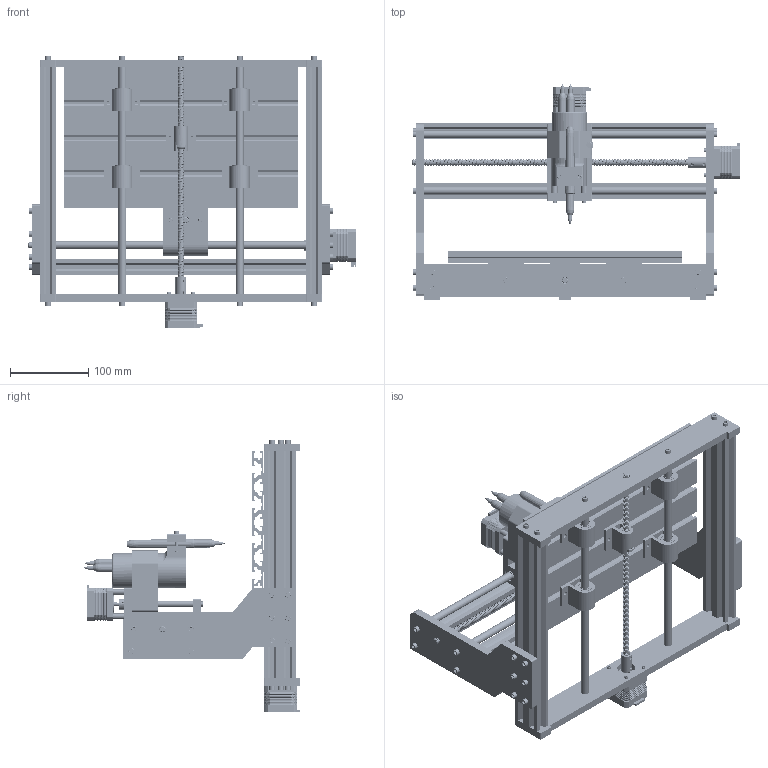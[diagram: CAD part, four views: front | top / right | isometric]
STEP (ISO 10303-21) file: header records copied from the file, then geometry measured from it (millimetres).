
FILE_DESCRIPTION(/* description */ ('STEP AP214'),/* implementation_level */ '2;1');
FILE_NAME(/* name */ 'cnc 3018 pro pen holder.stp',/* time_stamp */ '2024-11-10T20:24:41+01:00',/* author */ ('R5800u'),/* organization */ (''),/* preprocessor_version */ 'ST-DEVELOPER v20',/* originating_system */ 'Autodesk Inventor 2025',/* authorisation */ '');
FILE_SCHEMA (('AUTOMOTIVE_DESIGN { 1 0 10303 214 3 1 1 }'));
Products named in the file (37): Baugruppe - Original_1; Original - Nutenstein klein M5_1; Original - Zylinderkopfschraube M5x16_1; Original - Aluminium Profil X; Original - Rahmen X Richtung Y+_1; Original - Rahmen X Richtung Y-_1; Original - Aluminium Profil Y_1; Original - Seitenteil Links_1; Original - Seitenteil Rechts_1; Original - Trapezwelle X Achse_1; Original - T Achse Schrittmotor Träger; Original - Trapezgewindemutter Gehäuse_1; Original - Trapezwelle Y Achse_1; Original - KugellagerD16D8H5_1; Original - Schrittmotor_1; Original - Spacer Schrittmotor_1; Original - Trapezwelle Z Achse_1; Original - Spindelhalter_1; Original - Trapezgewindemutter _1; Original - Trapezgewindemutter Mitnehmer _1; Original - Führungswelle X; Original - Linearlager Gehäuse_1; Original - LinearlagerA19I10_1; Original - Führungswelle Y_1; Original - Führungswelle Z_1; Original - LinearlagerA15I8_1; Original - Tisch_1; Original - Führungswelle Verbinder_1; JST-Steckverbinder-6Pin_1; Original - Zylinderkopfschraube M3x14_1; bast; dayere; Original - Zylinderkopfschraube M4x30_1; Original - Kontermutter Spindelhalter_1; Sharpie Marker v1.0; blu; rosso
Assembly tree (124 placements, depth 2):
  Baugruppe - Original_1
    Original - Nutenstein klein M5_1  x12
    Original - Zylinderkopfschraube M4x30_1  x3
    Original - Zylinderkopfschraube M3x14_1  x12
    Original - Zylinderkopfschraube M5x16_1  x32
    Original - Aluminium Profil X  x2
    Original - Rahmen X Richtung Y+_1
    Original - Rahmen X Richtung Y-_1
    Original - Aluminium Profil Y_1  x2
    Original - Seitenteil Links_1
    Original - Seitenteil Rechts_1
    Original - Schrittmotor_1  x3
    JST-Steckverbinder-6Pin_1  x3
    Original - Trapezwelle X Achse_1
    Original - Führungswelle Verbinder_1  x3
    Original - T Achse Schrittmotor Träger
    Original - Trapezgewindemutter _1  x3
    Original - Trapezgewindemutter Mitnehmer _1  x3
    Original - Trapezgewindemutter Gehäuse_1
    Original - Trapezwelle Y Achse_1
    Original - KugellagerD16D8H5_1
    Original - Spacer Schrittmotor_1  x4
    Original - Trapezwelle Z Achse_1
    Original - Spindelhalter_1
    Original - Kontermutter Spindelhalter_1  x3
    Original - Führungswelle X  x2
    Original - LinearlagerA19I10_1  x8
    Original - Linearlager Gehäuse_1  x4
    Original - Führungswelle Y_1  x2
    Original - Führungswelle Z_1  x2
    Original - LinearlagerA15I8_1  x4
    Original - Tisch_1
    bast
    dayere
    Sharpie Marker v1.0
    blu
    rosso
Bounding box: 418.2 x 276.66 x 348.2 mm (x, y, z)
Volume: 1999188.1 mm3; surface area: 1048345.6 mm2
Topology: 136 solids, 136 shells, 6706 faces, 16361 edges, 10133 vertices
Faces by surface type: cylinder 3171, plane 2246, bspline 667, torus 492, cone 127, sphere 3
Full cylindrical faces by diameter (mm): 0.2 x2, 0.6 x36, 2.5 x12, 3 x30, 3.2 x4, 3.3 x9, 3.5 x6, 4 x17, 4.2 x2, 4.25 x3, 5 x118, 5.5 x3, 6.5 x3, 7 x404, 7.4 x32, 8 x409, 8.5 x1, 9 x11, 10 x32, 10.3 x2, 11.5 x16, 13 x11, 13.2 x2, 13.5 x2, 14 x3, 15 x6, 16 x3, 17 x16, 19 x14, 22 x4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
Entity records: 271117 total; most frequent: CARTESIAN_POINT 205309, ORIENTED_EDGE 14898, DIRECTION 11142, EDGE_CURVE 7449, VERTEX_POINT 4905, AXIS2_PLACEMENT_3D 3809, LINE 3524, VECTOR 3524
